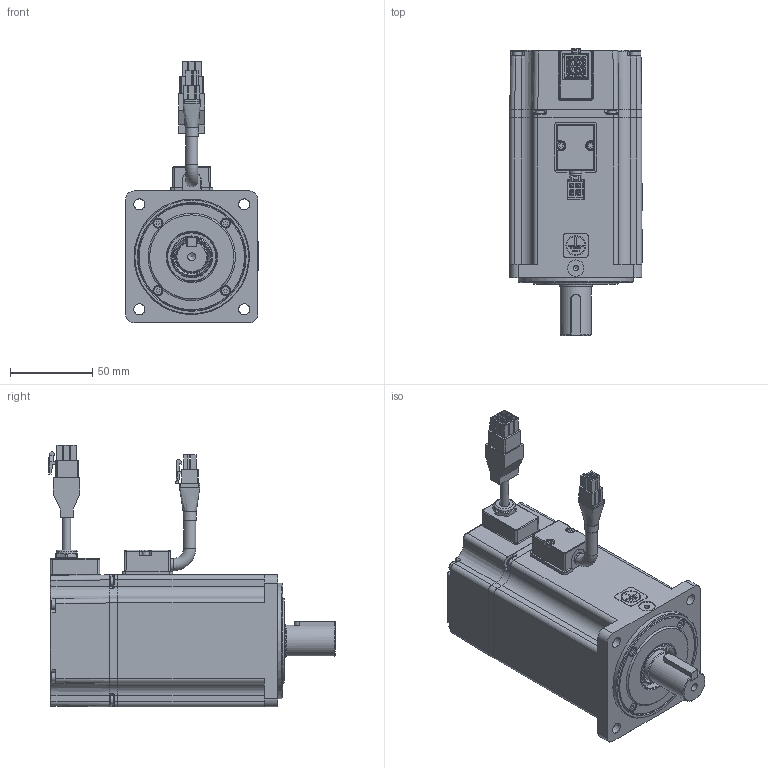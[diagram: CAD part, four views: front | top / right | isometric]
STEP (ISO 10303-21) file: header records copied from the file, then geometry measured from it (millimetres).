
FILE_DESCRIPTION( ( 'Unknown' ), '1' );
FILE_NAME( 'X:/05_Progetto TCE/010-TCE motor drawings/TCE80/vuoti/TCE80 3B XX 3 A2 0 D0.stp', 'Unknown', ( 'Unknown' ), ( 'Unknown' ), 'PSStep 17.0.49', 'Unknown', ' ' );
FILE_SCHEMA( ( 'AUTOMOTIVE_DESIGN { 1 0 10303 214 1 1 1 1 }' ) );
Length unit declared in the file: millimetre
Products named in the file (54): 003108015151_curva; 003303000375; 005453000452_D7,4; 003108020178_dritto; 005603001018; 003303000021; 005711000200; 005711000200-oa0; U5120002_vuoto; 001799000503; 005911000598; 003120002505; Assem1; 005204000001; 005204000002; 005008000690-oa1; 005008000690-oa2; 005008000740-oa3; 005008000908-oa4; 003103001502; 001107000619; 005119001502; 005123000690; 005123000800; 005911000182; 005911000493; 005911003621; 003155000302; 005204000003; 003251022002; 005113000492; 003003050005
Assembly tree (67 placements, depth 4):
  Assem1
    005204000001
    005204000002
    005008000690-oa1
    005008000690-oa2
    005008000740-oa3
    005008000908-oa4
    003103001502
    001107000619
    005119001502
    005119001502
    005123000690
    005123000690
    005123000690
    005123000690
    005123000690
    005123000690
    005123000690
    005123000690
    005123000800
    005123000800
    005123000800
    005123000800
    005123000800
    005123000800
    005123000800
    005123000800
    005123000800
    005911000182  x4
    005911000493  x4
    005911003621  x8
    003155000302
    005204000003
    003251022002
    005113000492
    003003050005
    003108020178_dritto
      005603001018
      003303000021
      005711000200
      005711000200-oa0
      003108020178_dritto
      003108020178_dritto
    U5120002_vuoto
      001799000503
      005911000598  x2
      003120002505
      003120002505
      003108015151_curva
        003303000375
        005453000452_D7,4
        003108015151_curva
        003108015151_curva
        003108015151_curva
Bounding box: 80.3 x 173.9 x 158.7 mm (x, y, z)
Volume: 354296.4 mm3; surface area: 193280.2 mm2
Topology: 64 solids, 64 shells, 2229 faces, 5504 edges, 3511 vertices
Faces by surface type: plane 1285, cylinder 467, torus 139, bspline 121, cone 119, sphere 61, extrusion 37
Full cylindrical faces by diameter (mm): 2.013 x3, 2.459 x31, 2.5 x2, 2.6 x9, 2.7 x2, 3 x16, 3.242 x4, 3.5 x16, 4.7 x3, 4.917 x2, 5 x1, 5.2 x1, 5.3 x2, 5.5 x17, 6.1 x1, 7 x1, 7.4 x2, 7.41 x1, 8 x2, 8.01 x1, 10 x3, 10.3 x2, 10.647 x1, 11 x1, 12 x2, 12.7 x1, 14.99 x1, 15 x2, 19 x2, 19.99 x1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
Entity records: 83680 total; most frequent: CARTESIAN_POINT 21036, DIRECTION 9357, ORIENTED_EDGE 9210, EDGE_CURVE 4605, AXIS2_PLACEMENT_3D 3191, VERTEX_POINT 3152, VECTOR 2975, LINE 2938
